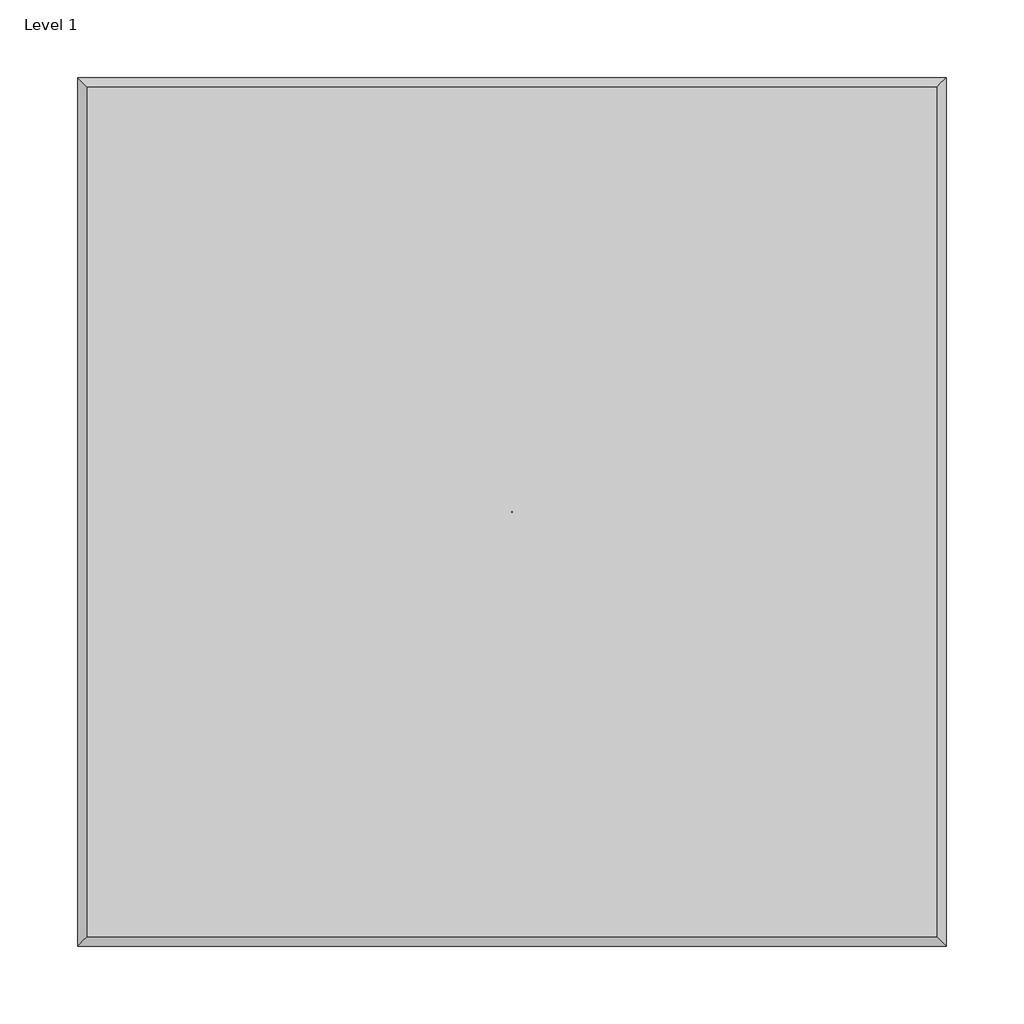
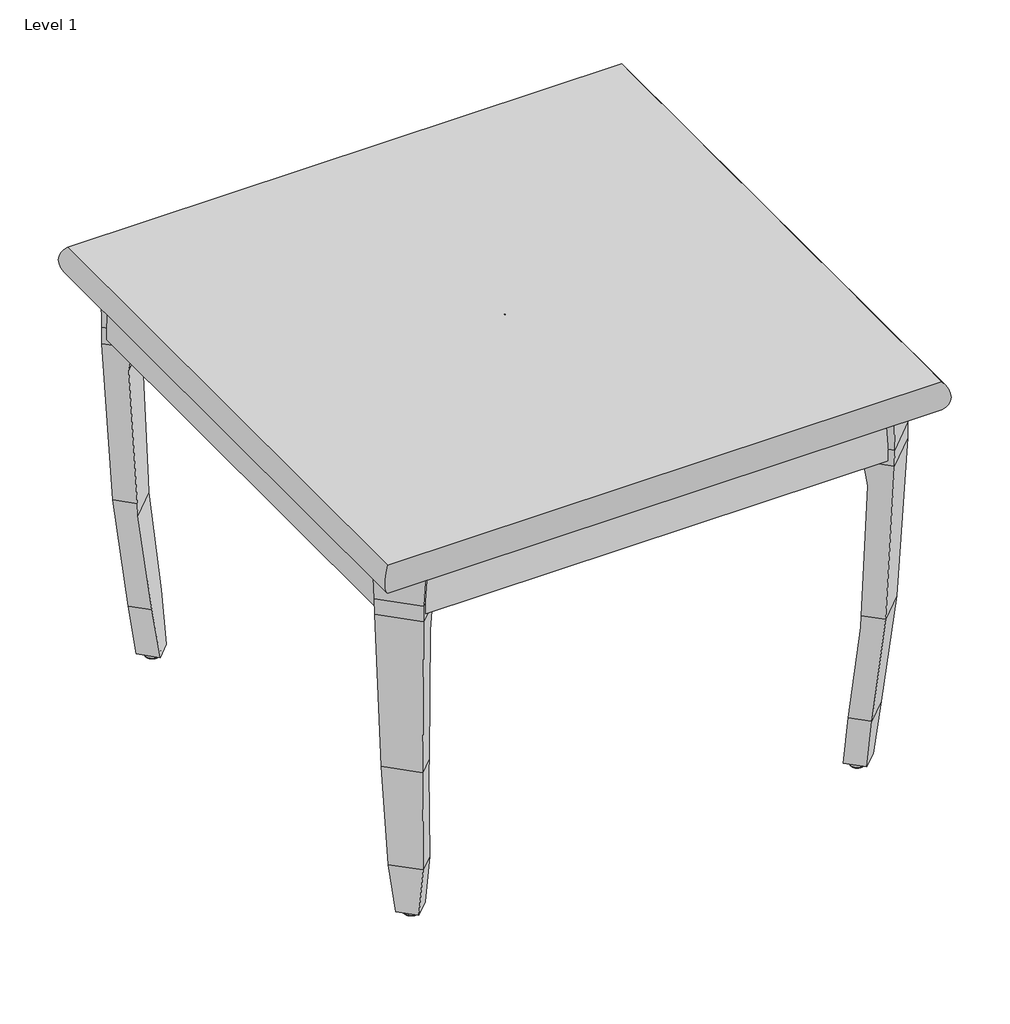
# One storey: 1 furniture element.
"""IFC4 building model written with IfcOpenShell, lengths in millimetres."""

import ifcopenshell
import ifcopenshell.guid

model = None  # the IFC model being written
_history = None  # IfcOwnerHistory: only IFC2X3 demands one
_inside = {}  # id of a spatial element -> (the spatial element, [elements in it])
_under = {}  # id of a project, library or spatial element -> (it, [spatial elements below it])
_declared = {}  # id of a project -> (the project, [libraries it declares])
_typed = {}  # id of a type object -> (the type object, [elements of that type])
_made_of = {}  # id of a material, layer set ... -> (it, [elements and type objects made of it])


def new_model(schema):
    """Start an empty IFC model of exactly this schema.

    Asked for "IFC4X3", IfcOpenShell would pick the latest addendum, in which some entities
    have other attributes; the version numbers below select the first issue.
    IFC2X3 requires an IfcOwnerHistory on every rooted entity: one is made here for all.
    """
    global model, _history
    if schema == "IFC4X3":
        model = ifcopenshell.file(schema_version=(4, 3, 0, 0))
    else:
        model = ifcopenshell.file(schema=schema)
    _inside.clear()
    _under.clear()
    _declared.clear()
    _typed.clear()
    _made_of.clear()
    _history = None
    if model.schema == "IFC2X3":
        org = make("IfcOrganization", Name="unknown")
        user = make(
            "IfcPersonAndOrganization",
            ThePerson=make("IfcPerson", FamilyName="unknown"),
            TheOrganization=org,
        )
        app = make(
            "IfcApplication",
            ApplicationDeveloper=org,
            Version="unknown",
            ApplicationFullName="unknown",
            ApplicationIdentifier="unknown",
        )
        _history = make(
            "IfcOwnerHistory",
            OwningUser=user,
            OwningApplication=app,
            ChangeAction="ADDED",
            CreationDate=0,
        )
    return model


def make(cls, **values):
    """One entity of the class cls with the attributes given. An attribute that is None is left unset."""
    return model.create_entity(
        cls, **{name: value for name, value in values.items() if value is not None}
    )


def rooted(cls, **values):
    """An entity with a GlobalId (a new one), such as an element, a storey or a relation."""
    return make(cls, GlobalId=ifcopenshell.guid.new(), OwnerHistory=_history, **values)


def si_unit(unit_type, name, prefix=None):
    """IfcSIUnit, for example si_unit("LENGTHUNIT", "METRE", prefix="MILLI")."""
    return make("IfcSIUnit", UnitType=unit_type, Prefix=prefix, Name=name)


def assignment(units):
    """IfcUnitAssignment: the units of a project."""
    return None if units is None else make("IfcUnitAssignment", Units=units)


def point(xyz):
    """IfcCartesianPoint."""
    return None if xyz is None else make("IfcCartesianPoint", Coordinates=xyz)


def direction(xyz):
    """IfcDirection."""
    return None if xyz is None else make("IfcDirection", DirectionRatios=xyz)


def frame(location, z_axis=None, x_axis=None):
    """IfcAxis2Placement3D, a coordinate frame: its origin and axes. An axis left out is left unset."""
    return make(
        "IfcAxis2Placement3D",
        Location=point(location),
        Axis=direction(z_axis),
        RefDirection=direction(x_axis),
    )


def origin():
    """The frame at (0, 0, 0) with its axes left unset."""
    return frame((0.0, 0.0, 0.0))


def place(relative_to, where):
    """IfcLocalPlacement: puts the frame where relative to a parent placement (None: the world)."""
    return make(
        "IfcLocalPlacement", PlacementRelTo=relative_to, RelativePlacement=where
    )


def context(
    kind, dimensions, precision=None, world=None, true_north=None, identifier=None
):
    """IfcGeometricRepresentationContext, for example the 3D "Model" context."""
    return make(
        "IfcGeometricRepresentationContext",
        ContextIdentifier=identifier,
        ContextType=kind,
        CoordinateSpaceDimension=dimensions,
        Precision=precision,
        WorldCoordinateSystem=world,
        TrueNorth=true_north,
    )


def project(units=None, contexts=None):
    """IfcProject with its units and contexts."""
    return rooted(
        "IfcProject",
        Name="project",
        RepresentationContexts=contexts,
        UnitsInContext=assignment(units),
    )


def spatial(cls, under=None, at=None, **own):
    """A site, building, storey or space (cls), placed at a placement, below another one or the project."""
    s = rooted(cls, ObjectPlacement=at, **own)
    if under is not None:
        _under.setdefault(under.id(), (under, []))[1].append(s)
    return s


def polyline(points):
    """IfcPolyline through the points."""
    return make("IfcPolyline", Points=[point(p) for p in points])


def circle_curve(where, radius):
    """IfcCircle in the frame where."""
    return make("IfcCircle", Position=where, Radius=radius)


def ellipse_curve(where, semi_axis1, semi_axis2):
    """IfcEllipse in the frame where."""
    return make(
        "IfcEllipse", Position=where, SemiAxis1=semi_axis1, SemiAxis2=semi_axis2
    )


def trimmed(basis, trim1, trim2, sense, master):
    """IfcTrimmedCurve: the piece of a basis curve between two trims."""
    return make(
        "IfcTrimmedCurve",
        BasisCurve=basis,
        Trim1=trim1,
        Trim2=trim2,
        SenseAgreement=sense,
        MasterRepresentation=master,
    )


def outline(outer, holes=None, kind="AREA"):
    """IfcArbitraryClosedProfileDef: a profile drawn as a closed curve; with holes, ...WithVoids."""
    if holes is None:
        return make("IfcArbitraryClosedProfileDef", ProfileType=kind, OuterCurve=outer)
    return make(
        "IfcArbitraryProfileDefWithVoids",
        ProfileType=kind,
        OuterCurve=outer,
        InnerCurves=holes,
    )


def extrude(swept, where, along, depth):
    """IfcExtrudedAreaSolid: the profile swept, set in the frame where, extruded along a direction by depth."""
    return make(
        "IfcExtrudedAreaSolid",
        SweptArea=swept,
        Position=where,
        ExtrudedDirection=direction(along),
        Depth=depth,
    )


def faces_of(points, faces, orient=None, outer=None):
    """IfcFace entities. A face is a list of loops; a loop is a list of indices into points, from 0.

    orient and outer hold one flag for each loop. By default every Orientation is true, the
    first loop of a face is its IfcFaceOuterBound and the others are IfcFaceBound.
    """
    made = []
    for i, loops in enumerate(faces):
        bounds = []
        for j, loop in enumerate(loops):
            is_outer = j == 0 if outer is None else outer[i][j]
            bounds.append(
                make(
                    "IfcFaceOuterBound" if is_outer else "IfcFaceBound",
                    Bound=make("IfcPolyLoop", Polygon=[points[k] for k in loop]),
                    Orientation=True if orient is None else orient[i][j],
                )
            )
        made.append(make("IfcFace", Bounds=bounds))
    return made


def faceted_brep(points, faces, orient=None, outer=None, voids=None):
    """IfcFacetedBrep: a solid bounded by flat faces; with voids (closed shells), ...WithVoids."""
    shared = [point(p) for p in points]
    hull = make("IfcClosedShell", CfsFaces=faces_of(shared, faces, orient, outer))
    if voids is None:
        return make("IfcFacetedBrep", Outer=hull)
    return make(
        "IfcFacetedBrepWithVoids",
        Outer=hull,
        Voids=[
            make(cls, CfsFaces=faces_of(shared, fs, o, b)) for cls, fs, o, b in voids
        ],
    )


def shape(context_of_items, identifier, shape_type, items):
    """IfcShapeRepresentation: the items that make up one representation, for example the "Body"."""
    return make(
        "IfcShapeRepresentation",
        ContextOfItems=context_of_items,
        RepresentationIdentifier=identifier,
        RepresentationType=shape_type,
        Items=items,
    )


def source(mapping_origin, context_of_items, identifier, shape_type, items):
    """IfcRepresentationMap: a shape defined once, which mapped items show again and again."""
    return make(
        "IfcRepresentationMap",
        MappingOrigin=mapping_origin,
        MappedRepresentation=shape(context_of_items, identifier, shape_type, items),
    )


def transform(
    local_origin,
    x_axis=None,
    y_axis=None,
    z_axis=None,
    scale=None,
    scale2=None,
    scale3=None,
    uniform=True,
):
    """IfcCartesianTransformationOperator3D, or its non-uniform kind. x_axis, y_axis, z_axis: its Axis1, 2, 3."""
    if uniform:
        return make(
            "IfcCartesianTransformationOperator3D",
            Axis1=direction(x_axis),
            Axis2=direction(y_axis),
            LocalOrigin=point(local_origin),
            Scale=scale,
            Axis3=direction(z_axis),
        )
    return make(
        "IfcCartesianTransformationOperator3DnonUniform",
        Axis1=direction(x_axis),
        Axis2=direction(y_axis),
        LocalOrigin=point(local_origin),
        Scale=scale,
        Axis3=direction(z_axis),
        Scale2=scale2,
        Scale3=scale3,
    )


def mapped(mapping_source, mapping_target):
    """IfcMappedItem: shows the shape of a source again, moved by a transform."""
    return make(
        "IfcMappedItem", MappingSource=mapping_source, MappingTarget=mapping_target
    )


def made_of(thing, what):
    """Note that an element or type object is made of a material, layer set ...; save() writes the relation."""
    if what is not None:
        _made_of.setdefault(what.id(), (what, []))[1].append(thing)
    return thing


def element(
    cls,
    number,
    at=None,
    inside=None,
    cuts=None,
    type_object=None,
    material=None,
    context=None,
    identifier="Body",
    shape_type=None,
    held_by="IfcProductDefinitionShape",
    body=None,
    shapes=None,
    **own,
):
    """One element of the class cls, such as IfcWall. Its Tag is "e" and its number.

    at: its placement. inside: the storey or other place that contains it. cuts: it is an
    opening in that element (IfcRelVoidsElement). A single representation is given by context,
    identifier, shape_type and body (its items); several are given by shapes. held_by: the class
    of the entity that holds the representations. save() writes the other relations.
    """
    e = rooted(cls, Tag="e%d" % number, ObjectPlacement=at, **own)
    if body is not None:
        shapes = [shape(context, identifier, shape_type, body)]
    if shapes is not None:
        e.Representation = make(held_by, Representations=shapes)
    if inside is not None:
        _inside.setdefault(inside.id(), (inside, []))[1].append(e)
    if cuts is not None:
        rooted(
            "IfcRelVoidsElement", RelatingBuildingElement=cuts, RelatedOpeningElement=e
        )
    if type_object is not None:
        _typed.setdefault(type_object.id(), (type_object, []))[1].append(e)
    return made_of(e, material)


def aggregate(whole, parts):
    """IfcRelAggregates: a whole, such as a stair, and the parts it consists of."""
    return rooted("IfcRelAggregates", RelatingObject=whole, RelatedObjects=parts)


def save(model, path):
    """Write the relations noted so far, then the file.

    IfcRelAggregates (storeys below a building ...), IfcRelContainedInSpatialStructure (elements
    in a storey), IfcRelDefinesByType, IfcRelAssociatesMaterial and IfcRelDeclares: one each for
    every whole, place, type object, material and project.
    """
    for whole, parts in _under.values():
        aggregate(whole, parts)
    for where, things in _inside.values():
        rooted(
            "IfcRelContainedInSpatialStructure",
            RelatedElements=things,
            RelatingStructure=where,
        )
    for kind, things in _typed.values():
        rooted("IfcRelDefinesByType", RelatedObjects=things, RelatingType=kind)
    for what, things in _made_of.values():
        rooted("IfcRelAssociatesMaterial", RelatedObjects=things, RelatingMaterial=what)
    for by, libraries in _declared.values():
        rooted("IfcRelDeclares", RelatingContext=by, RelatedDefinitions=libraries)
    model.write(path)


def plane_surface(at):
    """IfcPlane: the flat surface through the origin of the frame at, square to its z axis."""
    return make("IfcPlane", Position=at)


def cylinder_surface(at, radius):
    """IfcCylindricalSurface: all points at the distance radius from the z axis of the frame at."""
    return make("IfcCylindricalSurface", Position=at, Radius=radius)


def revolved_surface(curve, axis_point, axis_direction):
    """IfcSurfaceOfRevolution: the curve turned about the line through axis_point along axis_direction."""
    return make(
        "IfcSurfaceOfRevolution",
        SweptCurve=make("IfcArbitraryOpenProfileDef", ProfileType="CURVE", Curve=curve),
        AxisPosition=make("IfcAxis1Placement", Location=point(axis_point), Axis=direction(axis_direction)),
    )


def advanced_brep(points, edges, surfaces, faces):
    """IfcAdvancedBrep: a solid bounded by faces that lie on surfaces and meet in shared edges.

    An edge is (start, end): straight between two places in points (the first is 0);
    or (start, end, curve); or (start, end, curve, False) where it runs against its curve.
    A face is (place in surfaces, loops), or (place, loops, False) where it looks against
    its surface's normal. A loop lists edges by number (the first is 1), with a minus sign
    where the edge is run from its end to its start. The first loop is the outer one.
    """
    corners = [point(p) for p in points]
    vertices = [make("IfcVertexPoint", VertexGeometry=c) for c in corners]
    made = []
    for start, end, *more in edges:
        made.append(
            make(
                "IfcEdgeCurve",
                EdgeStart=vertices[start],
                EdgeEnd=vertices[end],
                EdgeGeometry=more[0] if more else make("IfcPolyline", Points=[corners[start], corners[end]]),
                SameSense=more[1] if len(more) > 1 else True,
            )
        )
    hull = []
    for where, loops, *sense in faces:
        bounds = []
        for j, loop in enumerate(loops):
            ring = [make("IfcOrientedEdge", EdgeElement=made[abs(k) - 1], Orientation=k > 0) for k in loop]
            bounds.append(
                make(
                    "IfcFaceOuterBound" if j == 0 else "IfcFaceBound",
                    Bound=make("IfcEdgeLoop", EdgeList=ring),
                    Orientation=True,
                )
            )
        hull.append(make("IfcAdvancedFace", Bounds=bounds, FaceSurface=surfaces[where], SameSense=sense[0] if sense else True))
    return make("IfcAdvancedBrep", Outer=make("IfcClosedShell", CfsFaces=hull))


def family3_family3_0510ef79(model_context):
    return source(origin(), model_context, "Body", "SolidModel", [
        advanced_brep(
        [(220.4861252, -221.2947805, 6.0), (214.8292712, -215.6379265, 6.0), (226.1429792, -226.9516345, 6.0), (224.5468978, -225.3555531, 0.0), (216.4253526, -217.2340079, 0.0), (220.4861252, -221.2947805, 0.0), (225.5579859, -226.3666412, 1.2429883), (215.4142646, -216.2229199, 1.2429883)],
        [
            (0, 1),
            (1, 2, circle_curve(frame((220.4861252, -221.2947805, 6.0), z_axis=(0.0, 0.0, 1.0), x_axis=(-0.7071067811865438, 0.7071067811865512, 0.0)), 7.9999997)),
            (2, 0),
            (2, 1, circle_curve(frame((220.4861252, -221.2947805, 6.0), z_axis=(0.0, 0.0, 1.0), x_axis=(-0.7071067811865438, 0.7071067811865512, 0.0)), 7.9999997)),
            (3, 4, circle_curve(frame((220.4861252, -221.2947805, 0.0), z_axis=(0.0, 0.0, -1.0), x_axis=(-0.7071067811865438, 0.7071067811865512, 0.0)), 5.7427997)),
            (4, 5),
            (5, 3),
            (4, 3, circle_curve(frame((220.4861252, -221.2947805, 0.0), z_axis=(0.0, 0.0, -1.0), x_axis=(-0.7071067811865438, 0.7071067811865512, 0.0)), 5.7427997)),
            (6, 7, circle_curve(frame((220.4861252, -221.2947805, 1.2429883), z_axis=(0.0, 0.0, -1.0), x_axis=(-0.7071067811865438, 0.7071067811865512, 0.0)), 7.1726941)),
            (7, 4, circle_curve(frame((217.1283684, -217.9370237, 2.5876597), z_axis=(-0.7071067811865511, -0.7071067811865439, 0.0), x_axis=(-0.7071067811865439, 0.7071067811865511, 0.0)), 2.7720832)),
            (3, 6, circle_curve(frame((223.8438821, -224.6525373, 2.5876597), z_axis=(-0.7071067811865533, -0.7071067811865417, 0.0), x_axis=(0.7071067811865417, -0.7071067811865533, 0.0)), 2.7720832)),
            (7, 6, circle_curve(frame((220.4861252, -221.2947805, 1.2429883), z_axis=(0.0, 0.0, -1.0), x_axis=(-0.7071067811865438, 0.7071067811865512, 0.0)), 7.1726941)),
            (1, 7),
            (6, 2),
        ],
        [
            plane_surface(frame((220.4861252, -221.2947805, 6.0), z_axis=(0.0, 0.0, 1.0), x_axis=(-0.7071067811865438, 0.7071067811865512, 0.0))),
            plane_surface(frame((220.4861252, -221.2947805, 0.0), z_axis=(0.0, 0.0, -1.0), x_axis=(-0.7071067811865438, 0.7071067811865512, 0.0))),
            revolved_surface(trimmed(ellipse_curve(frame((217.1283684, -217.9370237, 2.5876597), z_axis=(0.7071067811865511, 0.7071067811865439, 0.0), x_axis=(-0.7071067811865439, 0.7071067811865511, 0.0)), 2.7720832, 2.7720832), [point((216.4253526, -217.2340079, 0.0))], [point((215.4142646, -216.2229199, 1.2429883))], True, "CARTESIAN"), (220.4861252, -221.2947805, 6.0), (0.0, 0.0, 1.0)),
            revolved_surface(polyline([(215.4142646, -216.2229199, 1.2429883), (214.8292712, -215.6379265, 6.0)]), (220.4861252, -221.2947805, 6.0), (0.0, 0.0, 1.0)),
        ],
        [
            (0, [[1, 2, 3]]),
            (0, [[-3, 4, -1]]),
            (1, [[5, 6, 7]]),
            (1, [[8, -7, -6]]),
            (2, [[9, 10, -5, 11]]),
            (2, [[12, -11, -8, -10]]),
            (3, [[-2, 13, -9, 14]]),
            (3, [[-4, -14, -12, -13]]),
        ],
    ),
        faceted_brep([(238.7060123, -213.9503288, 156.4272796), (213.1416735, -239.5146676, 156.4272796), (213.3409314, -240.1748059, 168.9577284), (216.0835068, -246.9648054, 307.9477003), (246.1561501, -216.892162, 307.9477003), (239.3661506, -214.1495866, 168.9577284), (212.9372326, -244.5480588, 332.9999334), (243.7393984, -213.7458812, 332.9999866), (212.9391022, -244.5461774, 349.5791345), (211.7636244, -245.7216553, 382.9999869), (244.913, -212.5722797, 382.9999869), (243.7375221, -213.7477575, 349.5791345), (231.3651532, -265.3231841, 382.9999869), (264.5145288, -232.1738085, 382.9999869), (232.623116, -264.2301912, 349.5791345), (263.4215359, -233.4317713, 349.5791345), (232.3519026, -263.9589868, 332.8714334), (263.1503316, -233.1605579, 332.8714334), (228.5547052, -255.3885797, 168.9577284), (254.5799244, -229.3633605, 168.9577284), (221.5230668, -244.283162, 58.1995499), (243.4745067, -222.3317221, 58.1995499), (221.2332589, -236.4022841, 6.0), (235.5936288, -222.0419142, 6.0), (206.2348694, -221.4038945, 6.0), (220.5952392, -207.0435247, 6.0), (228.7314307, -207.588646, 58.1995499), (206.7799907, -229.5400859, 58.1995499)], [[[0, 1, 2, 3, 4, 5]], [[4, 3, 6, 7]], [[7, 6, 8, 9, 10, 11]], [[10, 9, 12, 13]], [[13, 12, 14, 15]], [[15, 14, 16, 17]], [[17, 16, 18, 19]], [[19, 18, 20, 21]], [[21, 20, 22, 23]], [[23, 22, 24, 25]], [[1, 0, 26, 25, 24, 27]], [[26, 21, 23, 25]], [[21, 26, 0, 5, 19]], [[7, 17, 19, 5, 4]], [[17, 7, 11, 15]], [[15, 11, 10, 13]], [[8, 14, 12, 9]], [[6, 16, 14, 8]], [[16, 6, 3, 2, 18]], [[18, 2, 1, 27, 20]], [[20, 27, 24, 22]]]),
        advanced_brep(
        [(-220.4861252, -221.2947805, 6.0), (-226.1429792, -226.9516345, 6.0), (-214.8292712, -215.6379265, 6.0), (-224.5468978, -225.3555531, 0.0), (-220.4861252, -221.2947805, 0.0), (-216.4253526, -217.2340079, 0.0), (-225.5579859, -226.3666412, 1.2429883), (-215.4142646, -216.2229199, 1.2429883)],
        [
            (0, 1),
            (1, 2, circle_curve(frame((-220.4861252, -221.2947805, 6.0), z_axis=(0.0, 0.0, 1.0), x_axis=(0.7071067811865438, 0.7071067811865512, 0.0)), 7.9999997)),
            (2, 0),
            (2, 1, circle_curve(frame((-220.4861252, -221.2947805, 6.0), z_axis=(0.0, 0.0, 1.0), x_axis=(0.7071067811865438, 0.7071067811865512, 0.0)), 7.9999997)),
            (3, 4),
            (4, 5),
            (5, 3, circle_curve(frame((-220.4861252, -221.2947805, 0.0), z_axis=(0.0, 0.0, -1.0), x_axis=(0.7071067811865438, 0.7071067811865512, 0.0)), 5.7427997)),
            (3, 5, circle_curve(frame((-220.4861252, -221.2947805, 0.0), z_axis=(0.0, 0.0, -1.0), x_axis=(0.7071067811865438, 0.7071067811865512, 0.0)), 5.7427997)),
            (6, 3, circle_curve(frame((-223.8438821, -224.6525373, 2.5876597), z_axis=(0.7071067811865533, -0.7071067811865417, 0.0), x_axis=(-0.7071067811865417, -0.7071067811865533, 0.0)), 2.7720832)),
            (5, 7, circle_curve(frame((-217.1283684, -217.9370237, 2.5876597), z_axis=(0.7071067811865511, -0.7071067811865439, 0.0), x_axis=(0.7071067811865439, 0.7071067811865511, 0.0)), 2.7720832)),
            (7, 6, circle_curve(frame((-220.4861252, -221.2947805, 1.2429883), z_axis=(0.0, 0.0, -1.0), x_axis=(0.7071067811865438, 0.7071067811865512, 0.0)), 7.1726941)),
            (6, 7, circle_curve(frame((-220.4861252, -221.2947805, 1.2429883), z_axis=(0.0, 0.0, -1.0), x_axis=(0.7071067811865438, 0.7071067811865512, 0.0)), 7.1726941)),
            (1, 6),
            (7, 2),
        ],
        [
            plane_surface(frame((-220.4861252, -221.2947805, 6.0), z_axis=(0.0, 0.0, 1.0), x_axis=(0.7071067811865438, 0.7071067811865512, 0.0))),
            plane_surface(frame((-220.4861252, -221.2947805, 0.0), z_axis=(0.0, 0.0, -1.0), x_axis=(0.7071067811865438, 0.7071067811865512, 0.0))),
            revolved_surface(trimmed(ellipse_curve(frame((-217.1283684, -217.9370237, 2.5876597), z_axis=(0.7071067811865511, -0.7071067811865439, 0.0), x_axis=(0.7071067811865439, 0.7071067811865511, 0.0)), 2.7720832, 2.7720832), [point((-216.4253526, -217.2340079, 0.0))], [point((-215.4142646, -216.2229199, 1.2429883))], True, "CARTESIAN"), (-220.4861252, -221.2947805, 6.0), (0.0, 0.0, 1.0)),
            revolved_surface(polyline([(-215.4142646, -216.2229199, 1.2429883), (-214.8292712, -215.6379265, 6.0)]), (-220.4861252, -221.2947805, 6.0), (0.0, 0.0, 1.0)),
        ],
        [
            (0, [[1, 2, 3]]),
            (0, [[-3, 4, -1]]),
            (1, [[5, 6, 7]]),
            (1, [[-6, -5, 8]]),
            (2, [[9, -7, 10, 11]]),
            (2, [[-10, -8, -9, 12]]),
            (3, [[13, -11, 14, -2]]),
            (3, [[-14, -12, -13, -4]]),
        ],
    ),
        faceted_brep([(-238.7060123, -213.9503288, 156.4272796), (-239.3661506, -214.1495866, 168.9577284), (-246.1561501, -216.892162, 307.9477003), (-216.0835068, -246.9648054, 307.9477003), (-213.3409314, -240.1748059, 168.9577284), (-213.1416735, -239.5146676, 156.4272796), (-243.7393984, -213.7458812, 332.9999866), (-212.9390977, -244.5461819, 332.9999866), (-243.7375221, -213.7477575, 349.5791345), (-244.913, -212.5722797, 382.9999869), (-211.7636244, -245.7216553, 382.9999869), (-212.9391022, -244.5461774, 349.5791345), (-264.5145288, -232.1738085, 382.9999869), (-231.3651532, -265.3231841, 382.9999869), (-263.4215359, -233.4317713, 349.5791345), (-232.623116, -264.2301912, 349.5791345), (-263.1503316, -233.1605579, 332.8714334), (-232.3519026, -263.9589868, 332.8714334), (-254.5799244, -229.3633605, 168.9577284), (-228.5547052, -255.3885797, 168.9577284), (-243.4745067, -222.3317221, 58.1995499), (-221.5230668, -244.283162, 58.1995499), (-235.5936288, -222.0419142, 6.0), (-221.2332589, -236.4022841, 6.0), (-220.5952392, -207.0435247, 6.0), (-206.2348694, -221.4038945, 6.0), (-206.7799907, -229.5400859, 58.1995499), (-228.7314307, -207.588646, 58.1995499)], [[[0, 1, 2, 3, 4, 5]], [[2, 6, 7, 3]], [[6, 8, 9, 10, 11, 7]], [[9, 12, 13, 10]], [[12, 14, 15, 13]], [[14, 16, 17, 15]], [[16, 18, 19, 17]], [[18, 20, 21, 19]], [[20, 22, 23, 21]], [[22, 24, 25, 23]], [[5, 26, 25, 24, 27, 0]], [[27, 24, 22, 20]], [[20, 18, 1, 0, 27]], [[6, 2, 1, 18, 16]], [[16, 14, 8, 6]], [[14, 12, 9, 8]], [[11, 10, 13, 15]], [[7, 11, 15, 17]], [[17, 19, 4, 3, 7]], [[19, 21, 26, 5, 4]], [[21, 23, 25, 26]]]),
        advanced_brep(
        [(-220.4861252, 221.2947805, 6.0), (-214.8292712, 215.6379265, 6.0), (-226.1429792, 226.9516345, 6.0), (-224.5468978, 225.3555531, 0.0), (-216.4253526, 217.2340079, 0.0), (-220.4861252, 221.2947805, 0.0), (-225.5579859, 226.3666412, 1.2429883), (-215.4142646, 216.2229199, 1.2429883)],
        [
            (0, 1),
            (1, 2, circle_curve(frame((-220.4861252, 221.2947805, 6.0), z_axis=(0.0, 0.0, 1.0), x_axis=(0.7071067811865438, -0.7071067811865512, 0.0)), 7.9999997)),
            (2, 0),
            (2, 1, circle_curve(frame((-220.4861252, 221.2947805, 6.0), z_axis=(0.0, 0.0, 1.0), x_axis=(0.7071067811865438, -0.7071067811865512, 0.0)), 7.9999997)),
            (3, 4, circle_curve(frame((-220.4861252, 221.2947805, 0.0), z_axis=(0.0, 0.0, -1.0), x_axis=(0.7071067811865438, -0.7071067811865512, 0.0)), 5.7427997)),
            (4, 5),
            (5, 3),
            (4, 3, circle_curve(frame((-220.4861252, 221.2947805, 0.0), z_axis=(0.0, 0.0, -1.0), x_axis=(0.7071067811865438, -0.7071067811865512, 0.0)), 5.7427997)),
            (6, 7, circle_curve(frame((-220.4861252, 221.2947805, 1.2429883), z_axis=(0.0, 0.0, -1.0), x_axis=(0.7071067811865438, -0.7071067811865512, 0.0)), 7.1726941)),
            (7, 4, circle_curve(frame((-217.1283684, 217.9370237, 2.5876597), z_axis=(0.7071067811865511, 0.7071067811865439, 0.0), x_axis=(0.7071067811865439, -0.7071067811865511, 0.0)), 2.7720832)),
            (3, 6, circle_curve(frame((-223.8438821, 224.6525373, 2.5876597), z_axis=(0.7071067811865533, 0.7071067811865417, 0.0), x_axis=(-0.7071067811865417, 0.7071067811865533, 0.0)), 2.7720832)),
            (7, 6, circle_curve(frame((-220.4861252, 221.2947805, 1.2429883), z_axis=(0.0, 0.0, -1.0), x_axis=(0.7071067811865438, -0.7071067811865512, 0.0)), 7.1726941)),
            (1, 7),
            (6, 2),
        ],
        [
            plane_surface(frame((-220.4861252, 221.2947805, 6.0), z_axis=(0.0, 0.0, 1.0), x_axis=(0.7071067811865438, -0.7071067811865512, 0.0))),
            plane_surface(frame((-220.4861252, 221.2947805, 0.0), z_axis=(0.0, 0.0, -1.0), x_axis=(0.7071067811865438, -0.7071067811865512, 0.0))),
            revolved_surface(trimmed(ellipse_curve(frame((-217.1283684, 217.9370237, 2.5876597), z_axis=(-0.7071067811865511, -0.7071067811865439, 0.0), x_axis=(0.7071067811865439, -0.7071067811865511, 0.0)), 2.7720832, 2.7720832), [point((-216.4253526, 217.2340079, 0.0))], [point((-215.4142646, 216.2229199, 1.2429883))], True, "CARTESIAN"), (-220.4861252, 221.2947805, 6.0), (0.0, 0.0, 1.0)),
            revolved_surface(polyline([(-215.4142646, 216.2229199, 1.2429883), (-214.8292712, 215.6379265, 6.0)]), (-220.4861252, 221.2947805, 6.0), (0.0, 0.0, 1.0)),
        ],
        [
            (0, [[1, 2, 3]]),
            (0, [[-3, 4, -1]]),
            (1, [[5, 6, 7]]),
            (1, [[8, -7, -6]]),
            (2, [[9, 10, -5, 11]]),
            (2, [[12, -11, -8, -10]]),
            (3, [[-2, 13, -9, 14]]),
            (3, [[-4, -14, -12, -13]]),
        ],
    ),
        faceted_brep([(-238.7060123, 213.9503288, 156.4272796), (-213.1416735, 239.5146676, 156.4272796), (-213.3409314, 240.1748059, 168.9577284), (-216.0835068, 246.9648054, 307.9477003), (-246.1561501, 216.892162, 307.9477003), (-239.3661506, 214.1495866, 168.9577284), (-212.9372326, 244.5480588, 332.9999334), (-243.7393984, 213.7458812, 332.9999866), (-212.9391022, 244.5461774, 349.5791345), (-211.7636244, 245.7216553, 382.9999869), (-244.913, 212.5722797, 382.9999869), (-243.7375221, 213.7477575, 349.5791345), (-231.3651532, 265.3231841, 382.9999869), (-264.5145288, 232.1738085, 382.9999869), (-232.623116, 264.2301912, 349.5791345), (-263.4215359, 233.4317713, 349.5791345), (-232.3519026, 263.9589868, 332.8714334), (-263.1503316, 233.1605579, 332.8714334), (-228.5547052, 255.3885797, 168.9577284), (-254.5799244, 229.3633605, 168.9577284), (-221.5230668, 244.283162, 58.1995499), (-243.4745067, 222.3317221, 58.1995499), (-221.2332589, 236.4022841, 6.0), (-235.5936288, 222.0419142, 6.0), (-206.2348694, 221.4038945, 6.0), (-220.5952392, 207.0435247, 6.0), (-228.7314307, 207.588646, 58.1995499), (-206.7799907, 229.5400859, 58.1995499)], [[[0, 1, 2, 3, 4, 5]], [[4, 3, 6, 7]], [[7, 6, 8, 9, 10, 11]], [[10, 9, 12, 13]], [[13, 12, 14, 15]], [[15, 14, 16, 17]], [[17, 16, 18, 19]], [[19, 18, 20, 21]], [[21, 20, 22, 23]], [[23, 22, 24, 25]], [[1, 0, 26, 25, 24, 27]], [[26, 21, 23, 25]], [[21, 26, 0, 5, 19]], [[7, 17, 19, 5, 4]], [[17, 7, 11, 15]], [[15, 11, 10, 13]], [[8, 14, 12, 9]], [[6, 16, 14, 8]], [[16, 6, 3, 2, 18]], [[18, 2, 1, 27, 20]], [[20, 27, 24, 22]]]),
        advanced_brep(
        [(220.4861252, 221.2947805, 6.0), (226.1429792, 226.9516345, 6.0), (214.8292712, 215.6379265, 6.0), (224.5468978, 225.3555531, 0.0), (220.4861252, 221.2947805, 0.0), (216.4253526, 217.2340079, 0.0), (225.5579859, 226.3666412, 1.2429883), (215.4142646, 216.2229199, 1.2429883)],
        [
            (0, 1),
            (1, 2, circle_curve(frame((220.4861252, 221.2947805, 6.0), z_axis=(0.0, 0.0, 1.0), x_axis=(-0.7071067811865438, -0.7071067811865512, 0.0)), 7.9999997)),
            (2, 0),
            (2, 1, circle_curve(frame((220.4861252, 221.2947805, 6.0), z_axis=(0.0, 0.0, 1.0), x_axis=(-0.7071067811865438, -0.7071067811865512, 0.0)), 7.9999997)),
            (3, 4),
            (4, 5),
            (5, 3, circle_curve(frame((220.4861252, 221.2947805, 0.0), z_axis=(0.0, 0.0, -1.0), x_axis=(-0.7071067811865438, -0.7071067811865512, 0.0)), 5.7427997)),
            (3, 5, circle_curve(frame((220.4861252, 221.2947805, 0.0), z_axis=(0.0, 0.0, -1.0), x_axis=(-0.7071067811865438, -0.7071067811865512, 0.0)), 5.7427997)),
            (6, 3, circle_curve(frame((223.8438821, 224.6525373, 2.5876597), z_axis=(-0.7071067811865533, 0.7071067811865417, 0.0), x_axis=(0.7071067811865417, 0.7071067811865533, 0.0)), 2.7720832)),
            (5, 7, circle_curve(frame((217.1283684, 217.9370237, 2.5876597), z_axis=(-0.7071067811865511, 0.7071067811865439, 0.0), x_axis=(-0.7071067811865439, -0.7071067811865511, 0.0)), 2.7720832)),
            (7, 6, circle_curve(frame((220.4861252, 221.2947805, 1.2429883), z_axis=(0.0, 0.0, -1.0), x_axis=(-0.7071067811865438, -0.7071067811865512, 0.0)), 7.1726941)),
            (6, 7, circle_curve(frame((220.4861252, 221.2947805, 1.2429883), z_axis=(0.0, 0.0, -1.0), x_axis=(-0.7071067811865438, -0.7071067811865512, 0.0)), 7.1726941)),
            (1, 6),
            (7, 2),
        ],
        [
            plane_surface(frame((220.4861252, 221.2947805, 6.0), z_axis=(0.0, 0.0, 1.0), x_axis=(-0.7071067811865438, -0.7071067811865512, 0.0))),
            plane_surface(frame((220.4861252, 221.2947805, 0.0), z_axis=(0.0, 0.0, -1.0), x_axis=(-0.7071067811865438, -0.7071067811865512, 0.0))),
            revolved_surface(trimmed(ellipse_curve(frame((217.1283684, 217.9370237, 2.5876597), z_axis=(-0.7071067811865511, 0.7071067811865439, 0.0), x_axis=(-0.7071067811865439, -0.7071067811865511, 0.0)), 2.7720832, 2.7720832), [point((216.4253526, 217.2340079, 0.0))], [point((215.4142646, 216.2229199, 1.2429883))], True, "CARTESIAN"), (220.4861252, 221.2947805, 6.0), (0.0, 0.0, 1.0)),
            revolved_surface(polyline([(215.4142646, 216.2229199, 1.2429883), (214.8292712, 215.6379265, 6.0)]), (220.4861252, 221.2947805, 6.0), (0.0, 0.0, 1.0)),
        ],
        [
            (0, [[1, 2, 3]]),
            (0, [[-3, 4, -1]]),
            (1, [[5, 6, 7]]),
            (1, [[-6, -5, 8]]),
            (2, [[9, -7, 10, 11]]),
            (2, [[-10, -8, -9, 12]]),
            (3, [[13, -11, 14, -2]]),
            (3, [[-14, -12, -13, -4]]),
        ],
    ),
        faceted_brep([(238.7060123, 213.9503288, 156.4272796), (239.3661506, 214.1495866, 168.9577284), (246.1561501, 216.892162, 307.9477003), (216.0835068, 246.9648054, 307.9477003), (213.3409314, 240.1748059, 168.9577284), (213.1416735, 239.5146676, 156.4272796), (243.7393984, 213.7458812, 332.9999866), (212.9390977, 244.5461819, 332.9999866), (243.7375221, 213.7477575, 349.5791345), (244.913, 212.5722797, 382.9999869), (211.7636244, 245.7216553, 382.9999869), (212.9391022, 244.5461774, 349.5791345), (264.5145288, 232.1738085, 382.9999869), (231.3651532, 265.3231841, 382.9999869), (263.4215359, 233.4317713, 349.5791345), (232.623116, 264.2301912, 349.5791345), (263.1503316, 233.1605579, 332.8714334), (232.3519026, 263.9589868, 332.8714334), (254.5799244, 229.3633605, 168.9577284), (228.5547052, 255.3885797, 168.9577284), (243.4745067, 222.3317221, 58.1995499), (221.5230668, 244.283162, 58.1995499), (235.5936288, 222.0419142, 6.0), (221.2332589, 236.4022841, 6.0), (220.5952392, 207.0435247, 6.0), (206.2348694, 221.4038945, 6.0), (206.7799907, 229.5400859, 58.1995499), (228.7314307, 207.588646, 58.1995499)], [[[0, 1, 2, 3, 4, 5]], [[2, 6, 7, 3]], [[6, 8, 9, 10, 11, 7]], [[9, 12, 13, 10]], [[12, 14, 15, 13]], [[14, 16, 17, 15]], [[16, 18, 19, 17]], [[18, 20, 21, 19]], [[20, 22, 23, 21]], [[22, 24, 25, 23]], [[5, 26, 25, 24, 27, 0]], [[27, 24, 22, 20]], [[20, 18, 1, 0, 27]], [[6, 2, 1, 18, 16]], [[16, 14, 8, 6]], [[14, 12, 9, 8]], [[11, 10, 13, 15]], [[7, 11, 15, 17]], [[17, 19, 4, 3, 7]], [[19, 21, 26, 5, 4]], [[21, 23, 25, 26]]]),
        advanced_brep(
        [(-0.1852477, -0.185284, 382.9999869), (-0.1852477, -0.185284, 412.5000031), (0.185284, -0.185284, 412.5000031), (0.185284, -0.185284, 382.9999869), (-273.4999665, -273.5000028, 412.5000031), (-273.4999665, -273.5000028, 382.9999869), (273.5000028, -273.5000028, 382.9999869), (273.5000028, -273.5000028, 412.5000031), (0.185284, 0.1852477, 412.5000031), (0.185284, 0.1852477, 382.9999869), (273.5000028, 273.4999665, 382.9999869), (273.5000028, 273.4999665, 412.5000031), (-0.1852477, 0.1852477, 412.5000031), (-0.1852477, 0.1852477, 382.9999869), (-273.4999665, 273.4999665, 382.9999869), (-273.4999665, 273.4999665, 412.5000031)],
        [
            (0, 1),
            (1, 2),
            (2, 3),
            (3, 0),
            (4, 5, ellipse_curve(frame((-258.0257851, -258.0258214, 397.749995), z_axis=(0.7071067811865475, -0.7071067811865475, 0.0), x_axis=(-0.7071067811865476, -0.7071067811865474, 0.0)), 30.2328639, 21.3778631)),
            (5, 6),
            (6, 7, ellipse_curve(frame((258.0258214, -258.0258214, 397.749995), z_axis=(-0.7071067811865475, -0.7071067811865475, 0.0), x_axis=(-0.7071067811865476, 0.7071067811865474, 0.0)), 30.2328639, 21.3778631)),
            (7, 4),
            (2, 8),
            (8, 9),
            (9, 3),
            (6, 10),
            (10, 11, ellipse_curve(frame((258.0258214, 258.0257851, 397.749995), z_axis=(0.7071067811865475, -0.7071067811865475, 0.0), x_axis=(-0.7071067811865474, -0.7071067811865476, 0.0)), 30.2328639, 21.3778631)),
            (11, 7),
            (8, 12),
            (12, 13),
            (13, 9),
            (10, 14),
            (14, 15, ellipse_curve(frame((-258.0257851, 258.0257851, 397.749995), z_axis=(0.7071067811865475, 0.7071067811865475, 0.0), x_axis=(0.7071067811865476, -0.7071067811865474, 0.0)), 30.2328639, 21.3778631)),
            (15, 11),
            (12, 1),
            (0, 13),
            (14, 5),
            (4, 15),
        ],
        [
            plane_surface(frame((-0.1852477, -0.185284, 412.5000031), z_axis=(0.0, 1.0, 0.0), x_axis=(1.0, 0.0, 0.0))),
            cylinder_surface(frame((-260.4852812, -258.0258214, 397.749995), z_axis=(-1.0, 0.0, 0.0), x_axis=(0.0, 1.0, 0.0)), 21.3778631),
            plane_surface(frame((0.185284, -0.185284, 412.5000031), z_axis=(-1.0, 0.0, 0.0), x_axis=(0.0, 1.0, 0.0))),
            cylinder_surface(frame((258.0258214, -260.4853176, 397.749995), z_axis=(0.0, -1.0, 0.0), x_axis=(-1.0, 0.0, 0.0)), 21.3778631),
            plane_surface(frame((0.185284, 0.1852477, 412.5000031), z_axis=(0.0, -1.0, 0.0), x_axis=(-1.0, 0.0, 0.0))),
            cylinder_surface(frame((260.4853176, 258.0257851, 397.749995), z_axis=(1.0, 0.0, 0.0), x_axis=(0.0, -1.0, 0.0)), 21.3778631),
            plane_surface(frame((-0.1852477, 0.1852477, 412.5000031), z_axis=(1.0, 0.0, 0.0), x_axis=(0.0, -1.0, 0.0))),
            cylinder_surface(frame((-258.0257851, 260.4852812, 397.749995), z_axis=(0.0, 1.0, 0.0), x_axis=(1.0, 0.0, 0.0)), 21.3778631),
            plane_surface(frame((0.185284, -0.185284, 382.9999869), z_axis=(0.0, 0.0, -1.0), x_axis=(0.0, 1.0, 0.0))),
            plane_surface(frame((273.5000028, -273.5000028, 412.5000031), z_axis=(0.0, 0.0, 1.0), x_axis=(0.0, 1.0, 0.0))),
        ],
        [
            (0, [[1, 2, 3, 4]]),
            (1, [[5, 6, 7, 8]]),
            (2, [[-3, 9, 10, 11]]),
            (3, [[-7, 12, 13, 14]]),
            (4, [[-10, 15, 16, 17]]),
            (5, [[-13, 18, 19, 20]]),
            (6, [[-16, 21, -1, 22]]),
            (7, [[-19, 23, -5, 24]]),
            (8, [[-12, -6, -23, -18], [-22, -4, -11, -17]]),
            (9, [[-24, -8, -14, -20], [-9, -2, -21, -15]]),
        ],
    ),
        extrude(outline(polyline([(-260.4852812, -235.8256062), (-260.4852812, 235.8256184), (-235.8256184, 260.4852812), (235.8256082, 260.4852812), (260.4853176, 235.8255719), (260.4853176, -235.8255582), (235.8255582, -260.4853176), (-235.8255698, -260.4853176), (-260.4852812, -235.8256062)]), holes=[polyline([(-241.9852817, -241.985284), (241.985284, -241.985284), (241.985284, 241.9852817), (-241.9852817, 241.9852817), (-241.9852817, -241.985284)])]), frame((0.0, 0.0, 338.0000084), z_axis=(0.0, 0.0, 1.0), x_axis=(1.0, 0.0, 0.0)), (0.0, 0.0, 1.0), 44.9999785),
    ])


model = new_model("IFC4")

# Units and contexts
model_context = context("Model", 3, world=origin())
ifc_project = project(units=[si_unit("LENGTHUNIT", "METRE", prefix="MILLI")], contexts=[model_context])

# Site, building, storey
site = spatial("IfcSite", under=ifc_project)
building = spatial("IfcBuilding", under=site)
storey = spatial("IfcBuildingStorey", under=building, Name="Level 1", Elevation=0.0)

# Furniture
placement = place(None, origin())
family3_family3_shape = family3_family3_0510ef79(model_context)
element("IfcFurniture", 1, ObjectType="Family3 : Family3", at=placement, inside=storey, context=model_context, shape_type="MappedRepresentation", body=[
    mapped(family3_family3_shape, transform((-220.0266578, 74.5553719, 0.0), x_axis=(1.0, 0.0, 0.0), y_axis=(0.0, 1.0, 0.0), z_axis=(0.0, 0.0, 1.0))),
])

save(model, "model.ifc")
